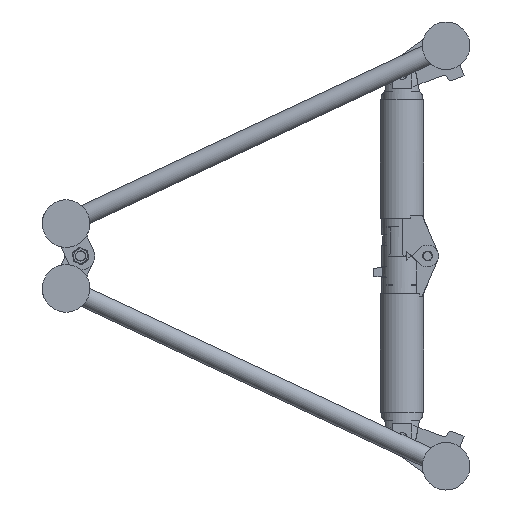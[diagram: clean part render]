
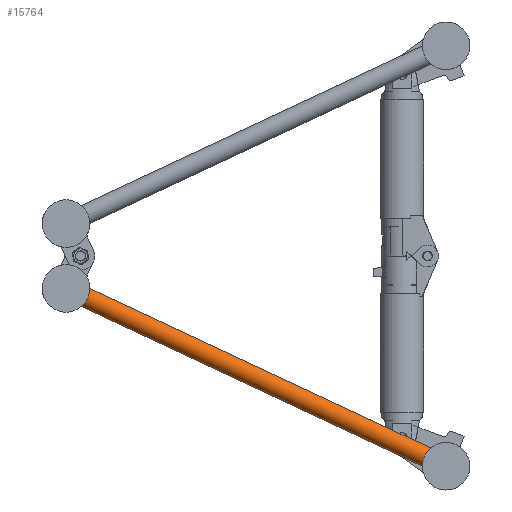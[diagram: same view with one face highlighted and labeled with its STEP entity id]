
A CAD part, left-side view. The second image highlights one B-rep face of the part: STEP entity #15764.
In plain terms, the highlighted cylindrical face has radius 12.5 mm (diameter 25 mm), a full revolution.
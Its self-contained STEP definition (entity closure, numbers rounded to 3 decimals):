
#286=B_SPLINE_CURVE_WITH_KNOTS('',3,(#25173,#25174,#25175,#25176,#25177,
#25178),.UNSPECIFIED.,.F.,.F.,(4,2,4),(1.801,1.922,
2.043),.UNSPECIFIED.);
#287=B_SPLINE_CURVE_WITH_KNOTS('',3,(#25182,#25183,#25184,#25185,#25186,
#25187),.UNSPECIFIED.,.F.,.F.,(4,2,4),(5.645,5.766,
5.887),.UNSPECIFIED.);
#292=B_SPLINE_CURVE_WITH_KNOTS('',3,(#25242,#25243,#25244,#25245,#25246,
#25247),.UNSPECIFIED.,.F.,.F.,(4,2,4),(5.645,5.766,
5.887),.UNSPECIFIED.);
#293=B_SPLINE_CURVE_WITH_KNOTS('',3,(#25251,#25252,#25253,#25254,#25255,
#25256),.UNSPECIFIED.,.F.,.F.,(4,2,4),(1.801,1.922,
2.043),.UNSPECIFIED.);
#693=FACE_BOUND('',#3296,.T.);
#1209=CIRCLE('',#17057,12.5);
#1210=CIRCLE('',#17059,12.5);
#1211=CIRCLE('',#17060,12.5);
#1212=CIRCLE('',#17061,12.5);
#1611=CYLINDRICAL_SURFACE('',#17058,12.5);
#2198=FACE_OUTER_BOUND('',#3295,.T.);
#3295=EDGE_LOOP('',(#11812,#11813,#11814,#11815));
#3296=EDGE_LOOP('',(#11816,#11817,#11818,#11819));
#6917=VERTEX_POINT('',#25171);
#6918=VERTEX_POINT('',#25172);
#6919=VERTEX_POINT('',#25179);
#6920=VERTEX_POINT('',#25181);
#6933=VERTEX_POINT('',#25240);
#6934=VERTEX_POINT('',#25241);
#6935=VERTEX_POINT('',#25248);
#6936=VERTEX_POINT('',#25250);
#8710=EDGE_CURVE('',#6917,#6918,#286,.T.);
#8712=EDGE_CURVE('',#6920,#6919,#287,.T.);
#8726=EDGE_CURVE('',#6919,#6917,#1209,.T.);
#8727=EDGE_CURVE('',#6933,#6934,#292,.T.);
#8728=EDGE_CURVE('',#6934,#6935,#1210,.T.);
#8729=EDGE_CURVE('',#6935,#6936,#293,.T.);
#8730=EDGE_CURVE('',#6936,#6933,#1211,.T.);
#8731=EDGE_CURVE('',#6918,#6920,#1212,.T.);
#11812=ORIENTED_EDGE('',*,*,#8727,.T.);
#11813=ORIENTED_EDGE('',*,*,#8728,.T.);
#11814=ORIENTED_EDGE('',*,*,#8729,.T.);
#11815=ORIENTED_EDGE('',*,*,#8730,.T.);
#11816=ORIENTED_EDGE('',*,*,#8712,.T.);
#11817=ORIENTED_EDGE('',*,*,#8726,.T.);
#11818=ORIENTED_EDGE('',*,*,#8710,.T.);
#11819=ORIENTED_EDGE('',*,*,#8731,.T.);
#15764=ADVANCED_FACE('',(#2198,#693),#1611,.T.);
#17057=AXIS2_PLACEMENT_3D('',#25238,#20044,#20045);
#17058=AXIS2_PLACEMENT_3D('',#25239,#20046,#20047);
#17059=AXIS2_PLACEMENT_3D('',#25249,#20048,#20049);
#17060=AXIS2_PLACEMENT_3D('',#25257,#20050,#20051);
#17061=AXIS2_PLACEMENT_3D('',#25258,#20052,#20053);
#20044=DIRECTION('center_axis',(0.,0.906,
0.424));
#20045=DIRECTION('ref_axis',(-1.,0.,0.));
#20046=DIRECTION('center_axis',(0.,0.906,
0.424));
#20047=DIRECTION('ref_axis',(-1.,0.,0.));
#20048=DIRECTION('center_axis',(0.,-0.906,
-0.424));
#20049=DIRECTION('ref_axis',(-1.,0.,0.));
#20050=DIRECTION('center_axis',(0.,-0.906,
-0.424));
#20051=DIRECTION('ref_axis',(-1.,0.,0.));
#20052=DIRECTION('center_axis',(0.,0.906,
0.424));
#20053=DIRECTION('ref_axis',(-1.,0.,0.));
#25171=CARTESIAN_POINT('',(104.94,22.096,-248.305));
#25172=CARTESIAN_POINT('',(104.94,23.134,-250.523));
#25173=CARTESIAN_POINT('Ctrl Pts',(104.94,22.096,-248.305));
#25174=CARTESIAN_POINT('Ctrl Pts',(104.98,22.289,-248.669));
#25175=CARTESIAN_POINT('Ctrl Pts',(105.,22.471,-249.036));
#25176=CARTESIAN_POINT('Ctrl Pts',(105.,22.813,-249.767));
#25177=CARTESIAN_POINT('Ctrl Pts',(104.98,22.978,-250.142));
#25178=CARTESIAN_POINT('Ctrl Pts',(104.94,23.134,-250.523));
#25179=CARTESIAN_POINT('',(80.06,22.096,-248.305));
#25181=CARTESIAN_POINT('',(80.06,23.134,-250.523));
#25182=CARTESIAN_POINT('Ctrl Pts',(80.06,23.134,-250.523));
#25183=CARTESIAN_POINT('Ctrl Pts',(80.02,22.978,-250.142));
#25184=CARTESIAN_POINT('Ctrl Pts',(80.,22.813,-249.767));
#25185=CARTESIAN_POINT('Ctrl Pts',(80.,22.471,-249.036));
#25186=CARTESIAN_POINT('Ctrl Pts',(80.02,22.289,-248.669));
#25187=CARTESIAN_POINT('Ctrl Pts',(80.06,22.096,-248.305));
#25238=CARTESIAN_POINT('Origin',(92.5,22.615,-249.414));
#25239=CARTESIAN_POINT('Origin',(92.5,234.999,-150.));
#25240=CARTESIAN_POINT('',(80.06,446.865,-49.477));
#25241=CARTESIAN_POINT('',(80.06,447.903,-51.695));
#25242=CARTESIAN_POINT('Ctrl Pts',(80.06,446.865,-49.477));
#25243=CARTESIAN_POINT('Ctrl Pts',(80.02,447.021,-49.858));
#25244=CARTESIAN_POINT('Ctrl Pts',(80.,447.185,-50.233));
#25245=CARTESIAN_POINT('Ctrl Pts',(80.,447.528,-50.964));
#25246=CARTESIAN_POINT('Ctrl Pts',(80.02,447.71,-51.331));
#25247=CARTESIAN_POINT('Ctrl Pts',(80.06,447.903,-51.695));
#25248=CARTESIAN_POINT('',(104.94,447.903,-51.695));
#25249=CARTESIAN_POINT('Origin',(92.5,447.384,-50.586));
#25250=CARTESIAN_POINT('',(104.94,446.865,-49.477));
#25251=CARTESIAN_POINT('Ctrl Pts',(104.94,447.903,-51.695));
#25252=CARTESIAN_POINT('Ctrl Pts',(104.98,447.71,-51.331));
#25253=CARTESIAN_POINT('Ctrl Pts',(105.,447.528,-50.964));
#25254=CARTESIAN_POINT('Ctrl Pts',(105.,447.185,-50.233));
#25255=CARTESIAN_POINT('Ctrl Pts',(104.98,447.021,-49.858));
#25256=CARTESIAN_POINT('Ctrl Pts',(104.94,446.865,-49.477));
#25257=CARTESIAN_POINT('Origin',(92.5,447.384,-50.586));
#25258=CARTESIAN_POINT('Origin',(92.5,22.615,-249.414));
